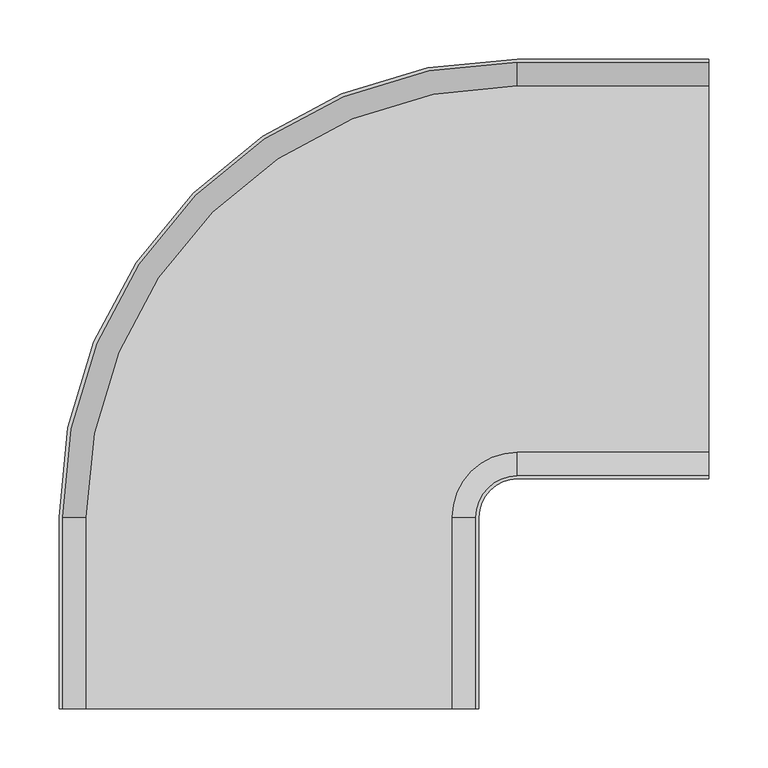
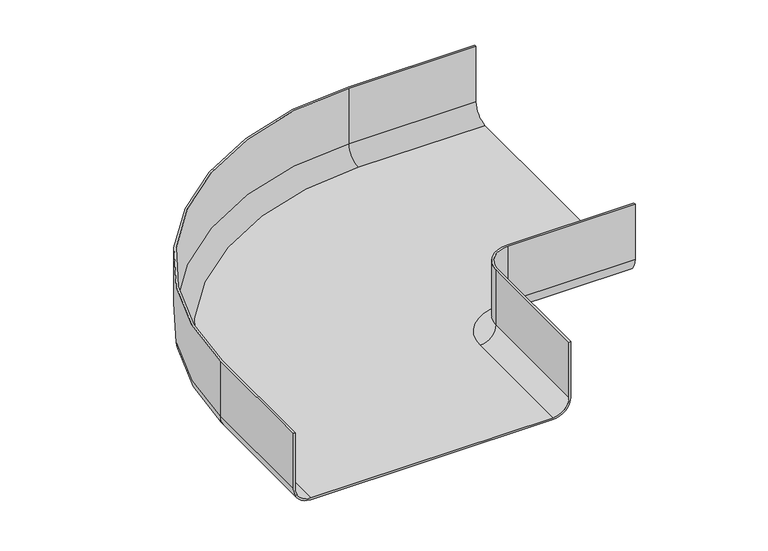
"""IFC4 building model written with IfcOpenShell, lengths in millimetres: cable carrier fitting geometry, CCT_Hyperline_FBTR_ELB90 Горизонтальный изгиб на 90° пластиковый : Горизонтальный изгиб на 90° пластиковый."""

from ifc_helpers import new_model, si_unit, point, frame, origin, place, context, project, spatial, polyline, circle_curve, ellipse_curve, trimmed, source, transform, mapped, element, save
from ifc_brep_helpers import plane_surface, cylinder_surface, revolved_surface, advanced_brep


def cable_carrier_fitting_3d7f2477(model_context):
    return source(origin(), model_context, "Body", "AdvancedBrep", [
        advanced_brep(
        [(372.0, -177.54, -25.0), (372.0, -155.0, -47.54), (372.0, 155.0, -47.54), (372.0, 177.54, -25.0), (372.0, 177.54, 50.0), (372.0, 175.0, 50.0), (372.0, 175.0, -25.0), (372.0, 155.0, -45.0), (372.0, -155.0, -45.0), (372.0, -175.0, -25.0), (372.0, -175.0, 50.0), (372.0, -177.54, 50.0), (210.0, -177.54, -25.0), (210.0, -155.0, -47.54), (210.0, -155.0, -45.0), (210.0, -175.0, -25.0), (210.0, -175.0, 50.0), (175.0, -210.0, 50.0), (175.0, -372.0, 50.0), (177.54, -372.0, 50.0), (177.54, -210.0, 50.0), (210.0, -177.54, 50.0), (155.0, -210.0, -47.54), (177.54, -210.0, -25.0), (175.0, -210.0, -25.0), (155.0, -210.0, -45.0), (177.54, -372.0, -25.0), (175.0, -372.0, -25.0), (155.0, -372.0, -45.0), (-155.0, -372.0, -45.0), (-175.0, -372.0, -25.0), (-175.0, -372.0, 50.0), (-177.54, -372.0, 50.0), (-177.54, -372.0, -25.0), (-155.0, -372.0, -47.54), (155.0, -372.0, -47.54), (210.0, 155.0, -47.54), (210.0, 177.54, -25.0), (210.0, 177.54, 50.0), (-177.54, -210.0, 50.0), (-175.0, -210.0, 50.0), (210.0, 175.0, 50.0), (210.0, 175.0, -25.0), (210.0, 155.0, -45.0), (-177.54, -210.0, -25.0), (-155.0, -210.0, -47.54), (-175.0, -210.0, -25.0), (-155.0, -210.0, -45.0)],
        [
            (0, 1, circle_curve(frame((372.0, -155.0, -25.0), z_axis=(1.0, 0.0, 0.0), x_axis=(0.0, -1.0, 0.0)), 22.54)),
            (1, 2),
            (2, 3, circle_curve(frame((372.0, 155.0, -25.0), z_axis=(1.0, 0.0, 0.0), x_axis=(0.0, -1.0, 0.0)), 22.54)),
            (3, 4),
            (4, 5),
            (5, 6),
            (6, 7, circle_curve(frame((372.0, 155.0, -25.0), z_axis=(-1.0, 0.0, 0.0), x_axis=(0.0, -1.0, 0.0)), 20.0)),
            (7, 8),
            (8, 9, circle_curve(frame((372.0, -155.0, -25.0), z_axis=(-1.0, 0.0, 0.0), x_axis=(0.0, -1.0, 0.0)), 20.0)),
            (9, 10),
            (10, 11),
            (11, 0),
            (0, 12),
            (12, 13, circle_curve(frame((210.0, -155.0, -25.0), z_axis=(1.0, 0.0, 0.0), x_axis=(0.0, -1.0, 0.0)), 22.54)),
            (13, 1),
            (8, 14),
            (14, 15, circle_curve(frame((210.0, -155.0, -25.0), z_axis=(-1.0, 0.0, 0.0), x_axis=(0.0, -1.0, 0.0)), 20.0)),
            (15, 9),
            (15, 16),
            (16, 10),
            (16, 17, circle_curve(frame((210.0, -210.0, 50.0), z_axis=(0.0, 0.0, 1.0), x_axis=(0.0, 1.0, 0.0)), 35.0)),
            (17, 18),
            (18, 19),
            (19, 20),
            (20, 21, circle_curve(frame((210.0, -210.0, 50.0), z_axis=(0.0, 0.0, -1.0), x_axis=(0.0, 1.0, 0.0)), 32.46)),
            (21, 11),
            (21, 12),
            (22, 13, circle_curve(frame((210.0, -210.0, -47.54), z_axis=(0.0, 0.0, -1.0), x_axis=(0.0, 1.0, 0.0)), 55.0)),
            (12, 23, circle_curve(frame((210.0, -210.0, -25.0), z_axis=(0.0, 0.0, 1.0), x_axis=(0.0, 1.0, 0.0)), 32.46)),
            (23, 22, circle_curve(frame((155.0, -210.0, -25.0), z_axis=(0.0, 1.0, 0.0), x_axis=(1.0, 0.0, 0.0)), 22.54)),
            (24, 15, circle_curve(frame((210.0, -210.0, -25.0), z_axis=(0.0, 0.0, -1.0), x_axis=(0.0, 1.0, 0.0)), 35.0)),
            (14, 25, circle_curve(frame((210.0, -210.0, -45.0), z_axis=(0.0, 0.0, 1.0), x_axis=(0.0, 1.0, 0.0)), 55.0)),
            (25, 24, circle_curve(frame((155.0, -210.0, -25.0), z_axis=(0.0, -1.0, 0.0), x_axis=(1.0, 0.0, 0.0)), 20.0)),
            (24, 17),
            (20, 23),
            (26, 19),
            (18, 27),
            (27, 28, circle_curve(frame((155.0, -372.0, -25.0), z_axis=(0.0, 1.0, 0.0), x_axis=(1.0, 0.0, 0.0)), 20.0)),
            (28, 29),
            (29, 30, circle_curve(frame((-155.0, -372.0, -25.0), z_axis=(0.0, 1.0, 0.0), x_axis=(1.0, 0.0, 0.0)), 20.0)),
            (30, 31),
            (31, 32),
            (32, 33),
            (33, 34, circle_curve(frame((-155.0, -372.0, -25.0), z_axis=(0.0, -1.0, 0.0), x_axis=(1.0, 0.0, 0.0)), 22.54)),
            (34, 35),
            (35, 26, circle_curve(frame((155.0, -372.0, -25.0), z_axis=(0.0, -1.0, 0.0), x_axis=(1.0, 0.0, 0.0)), 22.54)),
            (23, 26),
            (35, 22),
            (25, 28),
            (27, 24),
            (2, 36),
            (36, 37, circle_curve(frame((210.0, 155.0, -25.0), z_axis=(1.0, 0.0, 0.0), x_axis=(0.0, -1.0, 0.0)), 22.54)),
            (37, 3),
            (37, 38),
            (38, 4),
            (38, 39, circle_curve(frame((210.0, -210.0, 50.0), z_axis=(0.0, 0.0, 1.0), x_axis=(0.0, 1.0, 0.0)), 387.54)),
            (39, 32),
            (31, 40),
            (40, 41, circle_curve(frame((210.0, -210.0, 50.0), z_axis=(0.0, 0.0, -1.0), x_axis=(0.0, 1.0, 0.0)), 385.0)),
            (41, 5),
            (41, 42),
            (42, 6),
            (42, 43, circle_curve(frame((210.0, 155.0, -25.0), z_axis=(-1.0, 0.0, 0.0), x_axis=(0.0, -1.0, 0.0)), 20.0)),
            (43, 7),
            (44, 37, circle_curve(frame((210.0, -210.0, -25.0), z_axis=(0.0, 0.0, -1.0), x_axis=(0.0, 1.0, 0.0)), 387.54)),
            (36, 45, circle_curve(frame((210.0, -210.0, -47.54), z_axis=(0.0, 0.0, 1.0), x_axis=(0.0, 1.0, 0.0)), 365.0)),
            (45, 44, circle_curve(frame((-155.0, -210.0, -25.0), z_axis=(0.0, 1.0, 0.0), x_axis=(1.0, 0.0, 0.0)), 22.54)),
            (44, 39),
            (46, 42, circle_curve(frame((210.0, -210.0, -25.0), z_axis=(0.0, 0.0, -1.0), x_axis=(0.0, 1.0, 0.0)), 385.0)),
            (40, 46),
            (47, 43, circle_curve(frame((210.0, -210.0, -45.0), z_axis=(0.0, 0.0, -1.0), x_axis=(0.0, 1.0, 0.0)), 365.0)),
            (46, 47, circle_curve(frame((-155.0, -210.0, -25.0), z_axis=(0.0, -1.0, 0.0), x_axis=(1.0, 0.0, 0.0)), 20.0)),
            (45, 34),
            (33, 44),
            (30, 46),
            (29, 47),
        ],
        [
            plane_surface(frame((372.0, -175.0, 0.0), z_axis=(1.0, 0.0, 0.0), x_axis=(0.0, 0.0, 1.0))),
            cylinder_surface(frame((372.0, -155.0, -25.0), z_axis=(1.0, 0.0, 0.0), x_axis=(0.0, -1.0, 0.0)), 22.54),
            revolved_surface(polyline([(210.0, -175.0, -25.0), (372.0, -175.0, -25.0)]), (372.0, -155.0, -25.0), (-1.0, 0.0, 0.0)),
            plane_surface(frame((372.0, -175.0, -25.0), z_axis=(0.0, 1.0, 0.0), x_axis=(-1.0, 0.0, 0.0))),
            plane_surface(frame((372.0, -175.0, 50.0), z_axis=(0.0, 0.0, 1.0), x_axis=(-1.0, 0.0, 0.0))),
            plane_surface(frame((372.0, -177.54, 50.0), z_axis=(0.0, -1.0, 0.0), x_axis=(-1.0, 0.0, 0.0))),
            revolved_surface(trimmed(ellipse_curve(frame((210.0, -155.0, -25.0), z_axis=(1.0, 0.0, 0.0), x_axis=(0.0, -1.0, 0.0)), 22.54, 22.54), [point((210.0, -177.54, -25.0))], [point((210.0, -155.0, -47.54))], True, "CARTESIAN"), (210.0, -210.0, 0.0), (0.0, 0.0, 1.0)),
            revolved_surface(trimmed(ellipse_curve(frame((210.0, -155.0, -25.0), z_axis=(-1.0, 0.0, 0.0), x_axis=(0.0, -1.0, 0.0)), 20.0, 20.0), [point((210.0, -155.0, -45.0))], [point((210.0, -175.0, -25.0))], True, "CARTESIAN"), (210.0, -210.0, 0.0), (0.0, 0.0, 1.0)),
            cylinder_surface(frame((210.0, -210.0, 0.0), z_axis=(0.0, 0.0, 1.0), x_axis=(0.0, 1.0, 0.0)), 35.0),
            revolved_surface(polyline([(210.0, -177.54, 50.0), (210.0, -177.54, -25.0)]), (210.0, -210.0, 0.0), (0.0, 0.0, 1.0)),
            plane_surface(frame((175.0, -372.0, 0.0), z_axis=(0.0, -1.0, 0.0), x_axis=(0.0, 0.0, 1.0))),
            cylinder_surface(frame((155.0, -210.0, -25.0), z_axis=(0.0, 1.0, 0.0), x_axis=(1.0, 0.0, 0.0)), 22.54),
            revolved_surface(polyline([(175.0, -372.0, -25.0), (175.0, -210.0, -25.0)]), (155.0, -210.0, -25.0), (0.0, -1.0, 0.0)),
            plane_surface(frame((175.0, -210.0, -25.0), z_axis=(-1.0, 0.0, 0.0), x_axis=(0.0, -1.0, 0.0))),
            plane_surface(frame((177.54, -210.0, 50.0), z_axis=(1.0, 0.0, 0.0), x_axis=(0.0, -1.0, 0.0))),
            cylinder_surface(frame((372.0, 155.0, -25.0), z_axis=(1.0, 0.0, 0.0), x_axis=(0.0, -1.0, 0.0)), 22.54),
            plane_surface(frame((372.0, 177.54, -25.0), z_axis=(0.0, 1.0, 0.0), x_axis=(-1.0, 0.0, 0.0))),
            plane_surface(frame((372.0, 177.54, 50.0), z_axis=(0.0, 0.0, 1.0), x_axis=(-1.0, 0.0, 0.0))),
            plane_surface(frame((372.0, 175.0, 50.0), z_axis=(0.0, -1.0, 0.0), x_axis=(-1.0, 0.0, 0.0))),
            revolved_surface(polyline([(210.0, 135.0, -25.0), (372.0, 135.0, -25.0)]), (372.0, 155.0, -25.0), (-1.0, 0.0, 0.0)),
            revolved_surface(trimmed(ellipse_curve(frame((210.0, 155.0, -25.0), z_axis=(1.0, 0.0, 0.0), x_axis=(0.0, -1.0, 0.0)), 22.54, 22.54), [point((210.0, 155.0, -47.54))], [point((210.0, 177.54, -25.0))], True, "CARTESIAN"), (210.0, -210.0, 0.0), (0.0, 0.0, 1.0)),
            cylinder_surface(frame((210.0, -210.0, 0.0), z_axis=(0.0, 0.0, 1.0), x_axis=(0.0, 1.0, 0.0)), 387.54),
            revolved_surface(polyline([(210.0, 175.0, 50.0), (210.0, 175.0, -25.0)]), (210.0, -210.0, 0.0), (0.0, 0.0, 1.0)),
            revolved_surface(trimmed(ellipse_curve(frame((210.0, 155.0, -25.0), z_axis=(-1.0, 0.0, 0.0), x_axis=(0.0, -1.0, 0.0)), 20.0, 20.0), [point((210.0, 175.0, -25.0))], [point((210.0, 155.0, -45.0))], True, "CARTESIAN"), (210.0, -210.0, 0.0), (0.0, 0.0, 1.0)),
            cylinder_surface(frame((-155.0, -210.0, -25.0), z_axis=(0.0, 1.0, 0.0), x_axis=(1.0, 0.0, 0.0)), 22.54),
            plane_surface(frame((-177.54, -210.0, -25.0), z_axis=(-1.0, 0.0, 0.0), x_axis=(0.0, -1.0, 0.0))),
            plane_surface(frame((-175.0, -210.0, 50.0), z_axis=(1.0, 0.0, 0.0), x_axis=(0.0, -1.0, 0.0))),
            revolved_surface(polyline([(-135.0, -372.0, -25.0), (-135.0, -210.0, -25.0)]), (-155.0, -210.0, -25.0), (0.0, -1.0, 0.0)),
            plane_surface(frame((372.0, -155.0, -47.54), z_axis=(0.0, 0.0, -1.0), x_axis=(-1.0, 0.0, 0.0))),
            plane_surface(frame((372.0, 155.0, -45.0), z_axis=(0.0, 0.0, 1.0), x_axis=(-1.0, 0.0, 0.0))),
        ],
        [
            (0, [[1, 2, 3, 4, 5, 6, 7, 8, 9, 10, 11, 12]]),
            (1, [[-1, 13, 14, 15]]),
            (2, [[-9, 16, 17, 18]]),
            (3, [[-10, -18, 19, 20]]),
            (4, [[-11, -20, 21, 22, 23, 24, 25, 26]]),
            (5, [[-12, -26, 27, -13]]),
            (6, [[28, -14, 29, 30]]),
            (7, [[31, -17, 32, 33]]),
            (8, [[-21, -19, -31, 34]]),
            (9, [[-29, -27, -25, 35]]),
            (10, [[36, -23, 37, 38, 39, 40, 41, 42, 43, 44, 45, 46]]),
            (11, [[-30, 47, -46, 48]]),
            (12, [[-33, 49, -38, 50]]),
            (13, [[-34, -50, -37, -22]]),
            (14, [[-35, -24, -36, -47]]),
            (15, [[-3, 51, 52, 53]]),
            (16, [[-4, -53, 54, 55]]),
            (17, [[-5, -55, 56, 57, -42, 58, 59, 60]]),
            (18, [[-6, -60, 61, 62]]),
            (19, [[-7, -62, 63, 64]]),
            (20, [[65, -52, 66, 67]]),
            (21, [[-56, -54, -65, 68]]),
            (22, [[69, -61, -59, 70]]),
            (23, [[71, -63, -69, 72]]),
            (24, [[-67, 73, -44, 74]]),
            (25, [[-68, -74, -43, -57]]),
            (26, [[-70, -58, -41, 75]]),
            (27, [[-72, -75, -40, 76]]),
            (28, [[-2, -15, -28, -48, -45, -73, -66, -51]]),
            (29, [[-8, -64, -71, -76, -39, -49, -32, -16]]),
        ],
    ),
    ])


if __name__ == "__main__":
    model = new_model("IFC4")
    model_context = context("Model", 3, world=origin())
    ifc_project = project(units=[si_unit("LENGTHUNIT", "METRE", prefix="MILLI")], contexts=[model_context])
    site = spatial("IfcSite", under=ifc_project)
    building = spatial("IfcBuilding", under=site)
    placement = place(None, origin())
    cable_carrier_fitting_shape = cable_carrier_fitting_3d7f2477(model_context)
    element("IfcCableCarrierFitting", 1, ObjectType="CCT_Hyperline_FBTR_ELB90 Горизонтальный изгиб на 90° пластиковый : Горизонтальный изгиб на 90° пластиковый", at=placement, inside=building, context=model_context, shape_type="MappedRepresentation", body=[
        mapped(cable_carrier_fitting_shape, transform((0.0, 0.0, 0.0), x_axis=(1.0, 0.0, 0.0), y_axis=(0.0, 1.0, 0.0), z_axis=(0.0, 0.0, 1.0))),
    ])
    save(model, "model.ifc")
